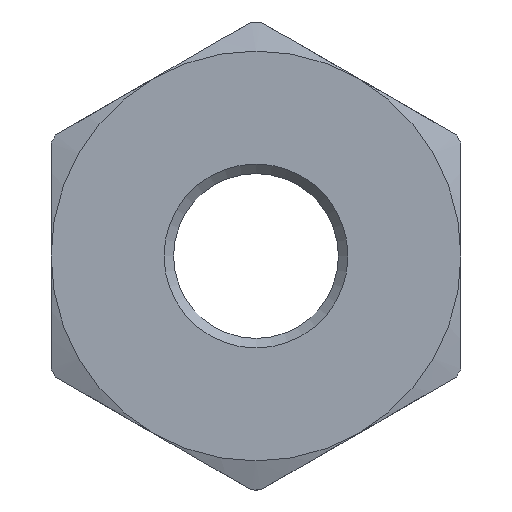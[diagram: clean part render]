
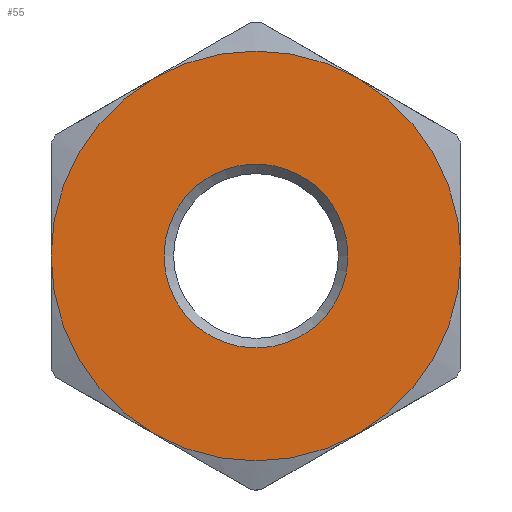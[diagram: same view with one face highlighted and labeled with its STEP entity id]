
A CAD part, front view. The second image highlights one B-rep face of the part: STEP entity #55.
In plain terms, the highlighted planar face has unit normal (0, -1, 0).
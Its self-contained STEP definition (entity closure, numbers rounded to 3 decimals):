
#55=ADVANCED_FACE('',(#171,#173),#175,.F.);
#171=FACE_BOUND('',#172,.T.);
#172=EDGE_LOOP('',(#325,#326,#327,#328));
#173=FACE_BOUND('',#174,.T.);
#174=EDGE_LOOP('',(#329));
#175=PLANE('',#176);
#176=AXIS2_PLACEMENT_3D('',#177,#178,#179);
#177=CARTESIAN_POINT('',(0.,0.,0.));
#178=DIRECTION('',(0.,1.,0.));
#179=DIRECTION('',(-1.,0.,0.));
#325=ORIENTED_EDGE('',*,*,#425,.T.);
#326=ORIENTED_EDGE('',*,*,#426,.T.);
#327=ORIENTED_EDGE('',*,*,#427,.T.);
#328=ORIENTED_EDGE('',*,*,#428,.T.);
#329=ORIENTED_EDGE('',*,*,#412,.T.);
#412=EDGE_CURVE('',#477,#477,#478,.T.);
#425=EDGE_CURVE('',#503,#504,#505,.F.);
#426=EDGE_CURVE('',#504,#506,#507,.F.);
#427=EDGE_CURVE('',#506,#508,#509,.F.);
#428=EDGE_CURVE('',#508,#503,#510,.F.);
#477=VERTEX_POINT('',#601);
#478=CIRCLE('',#602,13.459);
#503=VERTEX_POINT('',#660);
#504=VERTEX_POINT('',#661);
#505=CIRCLE('',#662,30.);
#506=VERTEX_POINT('',#666);
#507=CIRCLE('',#667,30.);
#508=VERTEX_POINT('',#671);
#509=CIRCLE('',#672,30.);
#510=CIRCLE('',#676,30.);
#601=CARTESIAN_POINT('',(-13.459,0.,0.));
#602=AXIS2_PLACEMENT_3D('',#603,#604,#605);
#603=CARTESIAN_POINT('',(0.,0.,0.));
#604=DIRECTION('',(0.,1.,0.));
#605=DIRECTION('',(-1.,0.,0.));
#660=CARTESIAN_POINT('',(15.,0.,-25.981));
#661=CARTESIAN_POINT('',(30.,0.,0.));
#662=AXIS2_PLACEMENT_3D('',#663,#664,#665);
#663=CARTESIAN_POINT('',(0.,0.,0.));
#664=DIRECTION('',(0.,1.,0.));
#665=DIRECTION('',(1.,0.,0.));
#666=CARTESIAN_POINT('',(-30.,0.,0.));
#667=AXIS2_PLACEMENT_3D('',#668,#669,#670);
#668=CARTESIAN_POINT('',(0.,0.,0.));
#669=DIRECTION('',(0.,1.,0.));
#670=DIRECTION('',(-1.,0.,0.));
#671=CARTESIAN_POINT('',(-15.,0.,-25.981));
#672=AXIS2_PLACEMENT_3D('',#673,#674,#675);
#673=CARTESIAN_POINT('',(0.,0.,0.));
#674=DIRECTION('',(0.,1.,0.));
#675=DIRECTION('',(-0.5,0.,-0.866));
#676=AXIS2_PLACEMENT_3D('',#677,#678,#679);
#677=CARTESIAN_POINT('',(0.,0.,0.));
#678=DIRECTION('',(0.,1.,0.));
#679=DIRECTION('',(0.5,0.,-0.866));
